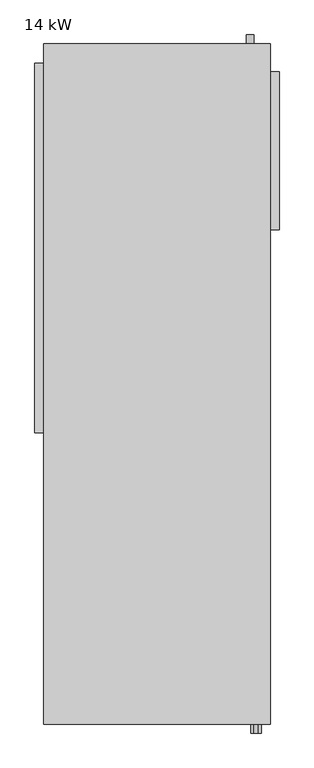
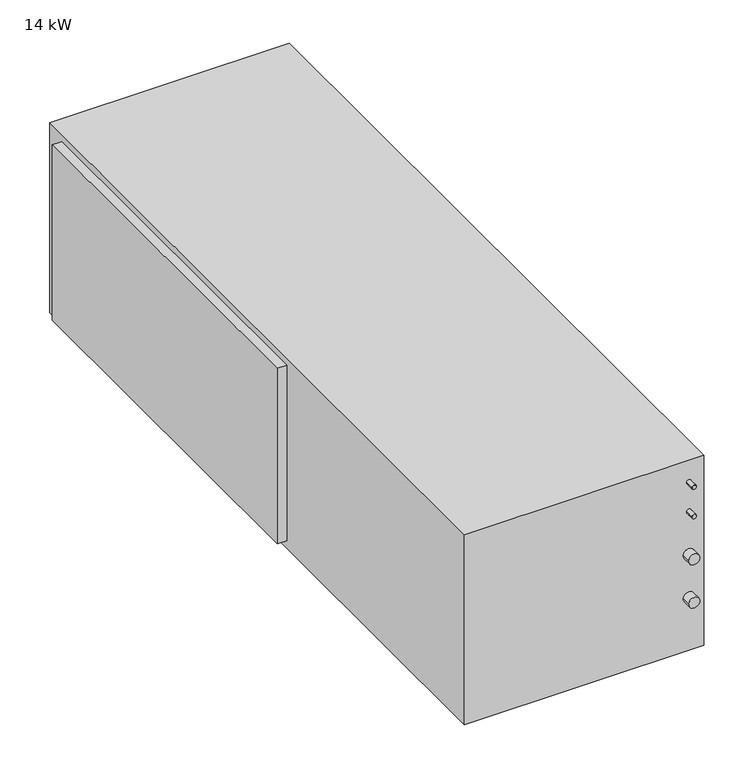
"""IFC4 building model written with IfcOpenShell, lengths in millimetres: proxy geometry, M_WSHP - Horizontal - High Efficiency - 7-18 kW - Left Return - Right Discharge : 14 kW."""

from ifc_helpers import new_model, si_unit, frame, origin, place, context, project, spatial, circle_curve, source, transform, mapped, element, save
from ifc_brep_helpers import plane_surface, cylinder_surface, advanced_brep


def proxy_14_kw_0309e4c2(model_context):
    return source(origin(), model_context, "Body", "AdvancedBrep", [
        advanced_brep(
        [(-25.4, 829.6, 20.5), (-25.4, 829.6, 520.5), (-25.4, 1879.6, 520.5), (-25.4, 1879.6, 20.5), (0.0, 1879.6, 20.5), (0.0, 829.6, 20.5), (0.0, 1879.6, 520.5), (0.0, 829.6, 520.5), (598.46, -25.4, 480.0), (610.46, -25.4, 480.0), (598.46, 0.0, 480.0), (610.46, 0.0, 480.0), (598.46, -25.4, 396.3), (610.46, -25.4, 396.3), (598.46, 0.0, 396.3), (610.46, 0.0, 396.3), (589.46, -25.4, 274.3), (619.46, -25.4, 274.3), (589.46, 0.0, 274.3), (619.46, 0.0, 274.3), (589.46, -25.4, 151.4), (619.46, -25.4, 151.4), (589.46, 0.0, 151.4), (619.46, 0.0, 151.4), (577.95, 1960.9, 86.36), (597.95, 1960.9, 86.36), (597.95, 1935.5, 86.36), (577.95, 1935.5, 86.36), (645.1, 0.0, 541.0), (645.1, 1935.5, 541.0), (0.0, 1935.5, 541.0), (0.0, 0.0, 541.0), (645.1, 0.0, 0.0), (0.0, 0.0, 0.0), (0.0, 1935.5, 0.0), (645.1, 1935.5, 0.0), (645.1, 1856.7, 500.4), (645.1, 1856.7, 25.4), (645.1, 1406.7, 25.4), (645.1, 1406.7, 500.4), (670.5, 1856.7, 25.4), (670.5, 1856.7, 500.4), (670.5, 1406.7, 500.4), (670.5, 1406.7, 25.4)],
        [
            (0, 1),
            (1, 2),
            (2, 3),
            (3, 0),
            (3, 4),
            (4, 5),
            (5, 0),
            (2, 6),
            (6, 4),
            (1, 7),
            (7, 6),
            (5, 7),
            (8, 9, circle_curve(frame((604.46, -25.4, 480.0), z_axis=(0.0, -1.0, 0.0), x_axis=(1.0, 0.0, 0.0)), 6.0)),
            (9, 8, circle_curve(frame((604.46, -25.4, 480.0), z_axis=(0.0, -1.0, 0.0), x_axis=(1.0, 0.0, 0.0)), 6.0)),
            (8, 10),
            (10, 11, circle_curve(frame((604.46, 0.0, 480.0), z_axis=(0.0, -1.0, 0.0), x_axis=(1.0, 0.0, 0.0)), 6.0)),
            (11, 9),
            (11, 10, circle_curve(frame((604.46, 0.0, 480.0), z_axis=(0.0, -1.0, 0.0), x_axis=(1.0, 0.0, 0.0)), 6.0)),
            (12, 13, circle_curve(frame((604.46, -25.4, 396.3), z_axis=(0.0, -1.0, 0.0), x_axis=(1.0, 0.0, 0.0)), 6.0)),
            (13, 12, circle_curve(frame((604.46, -25.4, 396.3), z_axis=(0.0, -1.0, 0.0), x_axis=(1.0, 0.0, 0.0)), 6.0)),
            (12, 14),
            (14, 15, circle_curve(frame((604.46, 0.0, 396.3), z_axis=(0.0, -1.0, 0.0), x_axis=(1.0, 0.0, 0.0)), 6.0)),
            (15, 13),
            (15, 14, circle_curve(frame((604.46, 0.0, 396.3), z_axis=(0.0, -1.0, 0.0), x_axis=(1.0, 0.0, 0.0)), 6.0)),
            (16, 17, circle_curve(frame((604.46, -25.4, 274.3), z_axis=(0.0, -1.0, 0.0), x_axis=(1.0, 0.0, 0.0)), 15.0)),
            (17, 16, circle_curve(frame((604.46, -25.4, 274.3), z_axis=(0.0, -1.0, 0.0), x_axis=(1.0, 0.0, 0.0)), 15.0)),
            (16, 18),
            (18, 19, circle_curve(frame((604.46, 0.0, 274.3), z_axis=(0.0, -1.0, 0.0), x_axis=(1.0, 0.0, 0.0)), 15.0)),
            (19, 17),
            (19, 18, circle_curve(frame((604.46, 0.0, 274.3), z_axis=(0.0, -1.0, 0.0), x_axis=(1.0, 0.0, 0.0)), 15.0)),
            (20, 21, circle_curve(frame((604.46, -25.4, 151.4), z_axis=(0.0, -1.0, 0.0), x_axis=(1.0, 0.0, 0.0)), 15.0)),
            (21, 20, circle_curve(frame((604.46, -25.4, 151.4), z_axis=(0.0, -1.0, 0.0), x_axis=(1.0, 0.0, 0.0)), 15.0)),
            (20, 22),
            (22, 23, circle_curve(frame((604.46, 0.0, 151.4), z_axis=(0.0, -1.0, 0.0), x_axis=(1.0, 0.0, 0.0)), 15.0)),
            (23, 21),
            (23, 22, circle_curve(frame((604.46, 0.0, 151.4), z_axis=(0.0, -1.0, 0.0), x_axis=(1.0, 0.0, 0.0)), 15.0)),
            (24, 25, circle_curve(frame((587.95, 1960.9, 86.36), z_axis=(0.0, 1.0, 0.0), x_axis=(1.0, 0.0, 0.0)), 10.0)),
            (25, 24, circle_curve(frame((587.95, 1960.9, 86.36), z_axis=(0.0, 1.0, 0.0), x_axis=(1.0, 0.0, 0.0)), 10.0)),
            (25, 26),
            (26, 27, circle_curve(frame((587.95, 1935.5, 86.36), z_axis=(0.0, 1.0, 0.0), x_axis=(1.0, 0.0, 0.0)), 10.0)),
            (27, 24),
            (27, 26, circle_curve(frame((587.95, 1935.5, 86.36), z_axis=(0.0, 1.0, 0.0), x_axis=(1.0, 0.0, 0.0)), 10.0)),
            (28, 29),
            (29, 30),
            (30, 31),
            (31, 28),
            (32, 33),
            (33, 34),
            (34, 35),
            (35, 32),
            (28, 32),
            (35, 29),
            (36, 37),
            (37, 38),
            (38, 39),
            (39, 36),
            (34, 30),
            (33, 31),
            (40, 41),
            (41, 42),
            (42, 43),
            (43, 40),
            (40, 37),
            (36, 41),
            (39, 42),
            (38, 43),
        ],
        [
            plane_surface(frame((-25.4, 1879.6, 20.5), z_axis=(-1.0, 0.0, 0.0), x_axis=(0.0, -1.0, 0.0))),
            plane_surface(frame((0.0, 829.6, 20.5), z_axis=(0.0, 0.0, -1.0), x_axis=(-1.0, 0.0, 0.0))),
            plane_surface(frame((0.0, 1879.6, 20.5), z_axis=(0.0, 1.0, 0.0), x_axis=(-1.0, 0.0, 0.0))),
            plane_surface(frame((0.0, 1879.6, 520.5), z_axis=(0.0, 0.0, 1.0), x_axis=(-1.0, 0.0, 0.0))),
            plane_surface(frame((0.0, 829.6, 520.5), z_axis=(0.0, -1.0, 0.0), x_axis=(-1.0, 0.0, 0.0))),
            plane_surface(frame((610.46, -25.4, 480.0), z_axis=(0.0, -1.0, 0.0), x_axis=(0.0, 0.0, 1.0))),
            cylinder_surface(frame((604.46, 0.0, 480.0), z_axis=(0.0, -1.0, 0.0), x_axis=(1.0, 0.0, 0.0)), 6.0),
            plane_surface(frame((610.46, -25.4, 396.3), z_axis=(0.0, -1.0, 0.0), x_axis=(0.0, 0.0, 1.0))),
            cylinder_surface(frame((604.46, 0.0, 396.3), z_axis=(0.0, -1.0, 0.0), x_axis=(1.0, 0.0, 0.0)), 6.0),
            plane_surface(frame((619.46, -25.4, 274.3), z_axis=(0.0, -1.0, 0.0), x_axis=(0.0, 0.0, 1.0))),
            cylinder_surface(frame((604.46, 0.0, 274.3), z_axis=(0.0, -1.0, 0.0), x_axis=(1.0, 0.0, 0.0)), 15.0),
            plane_surface(frame((619.46, -25.4, 151.4), z_axis=(0.0, -1.0, 0.0), x_axis=(0.0, 0.0, 1.0))),
            cylinder_surface(frame((604.46, 0.0, 151.4), z_axis=(0.0, -1.0, 0.0), x_axis=(1.0, 0.0, 0.0)), 15.0),
            plane_surface(frame((597.95, 1960.9, 86.36), z_axis=(0.0, 1.0, 0.0), x_axis=(0.0, 0.0, -1.0))),
            cylinder_surface(frame((587.95, 1960.9, 86.36), z_axis=(0.0, -1.0, 0.0), x_axis=(1.0, 0.0, 0.0)), 10.0),
            plane_surface(frame((645.1, 0.0, 541.0), z_axis=(0.0, 0.0, 1.0), x_axis=(0.0, 1.0, 0.0))),
            plane_surface(frame((645.1, 0.0, 0.0), z_axis=(0.0, 0.0, -1.0), x_axis=(0.0, -1.0, 0.0))),
            plane_surface(frame((645.1, 0.0, 541.0), z_axis=(1.0, 0.0, 0.0), x_axis=(0.0, 0.0, -1.0))),
            plane_surface(frame((645.1, 1935.5, 541.0), z_axis=(0.0, 1.0, 0.0), x_axis=(0.0, 0.0, -1.0))),
            plane_surface(frame((0.0, 1935.5, 541.0), z_axis=(-1.0, 0.0, 0.0), x_axis=(0.0, 0.0, -1.0))),
            plane_surface(frame((0.0, 0.0, 541.0), z_axis=(0.0, -1.0, 0.0), x_axis=(0.0, 0.0, -1.0))),
            plane_surface(frame((670.5, 1856.7, 25.4), z_axis=(1.0, 0.0, 0.0), x_axis=(0.0, 0.0, 1.0))),
            plane_surface(frame((670.5, 1856.7, 25.4), z_axis=(0.0, 1.0, 0.0), x_axis=(-1.0, 0.0, 0.0))),
            plane_surface(frame((670.5, 1856.7, 500.4), z_axis=(0.0, 0.0, 1.0), x_axis=(-1.0, 0.0, 0.0))),
            plane_surface(frame((670.5, 1406.7, 500.4), z_axis=(0.0, -1.0, 0.0), x_axis=(-1.0, 0.0, 0.0))),
            plane_surface(frame((670.5, 1406.7, 25.4), z_axis=(0.0, 0.0, -1.0), x_axis=(-1.0, 0.0, 0.0))),
        ],
        [
            (0, [[1, 2, 3, 4]]),
            (1, [[-4, 5, 6, 7]]),
            (2, [[-3, 8, 9, -5]]),
            (3, [[-2, 10, 11, -8]]),
            (4, [[-1, -7, 12, -10]]),
            (5, [[13, 14]]),
            (6, [[-13, 15, 16, 17]]),
            (6, [[-14, -17, 18, -15]]),
            (7, [[19, 20]]),
            (8, [[-19, 21, 22, 23]]),
            (8, [[-20, -23, 24, -21]]),
            (9, [[25, 26]]),
            (10, [[-25, 27, 28, 29]]),
            (10, [[-26, -29, 30, -27]]),
            (11, [[31, 32]]),
            (12, [[-31, 33, 34, 35]]),
            (12, [[-32, -35, 36, -33]]),
            (13, [[37, 38]]),
            (14, [[-38, 39, 40, 41]]),
            (14, [[-37, -41, 42, -39]]),
            (15, [[43, 44, 45, 46]]),
            (16, [[47, 48, 49, 50]]),
            (17, [[-43, 51, -50, 52], [53, 54, 55, 56]]),
            (18, [[-44, -52, -49, 57], [-40, -42]]),
            (19, [[-45, -57, -48, 58], [-6, -9, -11, -12]]),
            (20, [[-46, -58, -47, -51], [-16, -18], [-22, -24], [-28, -30], [-34, -36]]),
            (21, [[59, 60, 61, 62]]),
            (22, [[-59, 63, -53, 64]]),
            (23, [[-60, -64, -56, 65]]),
            (24, [[-61, -65, -55, 66]]),
            (25, [[-62, -66, -54, -63]]),
        ],
    ),
    ])


if __name__ == "__main__":
    model = new_model("IFC4")
    model_context = context("Model", 3, world=origin())
    ifc_project = project(units=[si_unit("LENGTHUNIT", "METRE", prefix="MILLI")], contexts=[model_context])
    site = spatial("IfcSite", under=ifc_project)
    building = spatial("IfcBuilding", under=site)
    placement = place(None, origin())
    proxy_14_kw_shape = proxy_14_kw_0309e4c2(model_context)
    element("IfcBuildingElementProxy", 1, Name="M_WSHP - Horizontal - High Efficiency - 7-18 kW - Left Return - Right Discharge : 14 kW", ObjectType="M_WSHP - Horizontal - High Efficiency - 7-18 kW - Left Return - Right Discharge : 14 kW", at=placement, inside=building, context=model_context, shape_type="MappedRepresentation", body=[
        mapped(proxy_14_kw_shape, transform((0.0, 0.0, 0.0), x_axis=(1.0, 0.0, 0.0), y_axis=(0.0, 1.0, 0.0), z_axis=(0.0, 0.0, 1.0))),
    ])
    save(model, "model.ifc")
